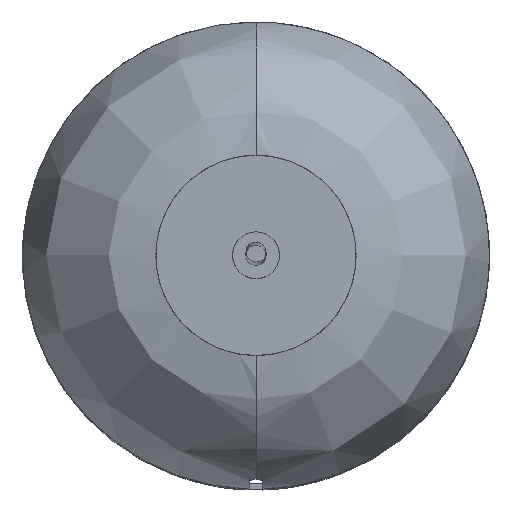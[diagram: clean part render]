
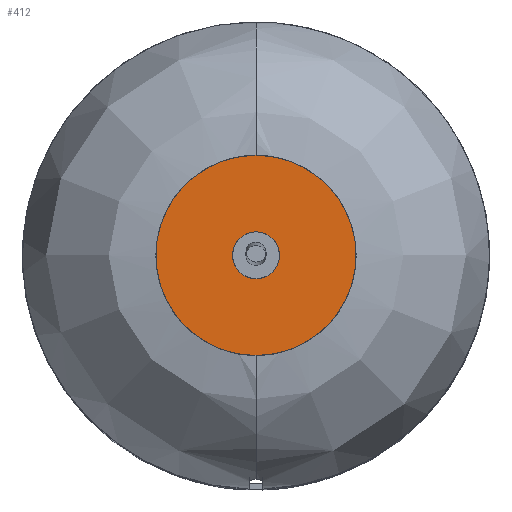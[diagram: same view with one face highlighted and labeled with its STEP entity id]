
A CAD part, top view. The second image highlights one B-rep face of the part: STEP entity #412.
In plain terms, the highlighted free-form (B-spline) face has degree [1, 1] with [2, 2] control points.
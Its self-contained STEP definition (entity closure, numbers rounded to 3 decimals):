
#14=FACE_BOUND('',#480,.T.);
#71=(
BOUNDED_CURVE()
B_SPLINE_CURVE(2,(#3058,#3059,#3060,#3061,#3062),.UNSPECIFIED.,.F.,.F.)
B_SPLINE_CURVE_WITH_KNOTS((3,2,3),(0.,47.124,94.248),
 .UNSPECIFIED.)
CURVE()
GEOMETRIC_REPRESENTATION_ITEM()
RATIONAL_B_SPLINE_CURVE((1.,0.707,1.,0.707,1.))
REPRESENTATION_ITEM('')
);
#72=(
BOUNDED_CURVE()
B_SPLINE_CURVE(2,(#3063,#3064,#3065,#3066,#3067),.UNSPECIFIED.,.F.,.F.)
B_SPLINE_CURVE_WITH_KNOTS((3,2,3),(0.,47.124,94.248),
 .UNSPECIFIED.)
CURVE()
GEOMETRIC_REPRESENTATION_ITEM()
RATIONAL_B_SPLINE_CURVE((1.,0.707,1.,0.707,1.))
REPRESENTATION_ITEM('')
);
#73=(
BOUNDED_CURVE()
B_SPLINE_CURVE(2,(#3068,#3069,#3070,#3071,#3072),.UNSPECIFIED.,.F.,.F.)
B_SPLINE_CURVE_WITH_KNOTS((3,2,3),(94.248,141.372,188.496),
 .UNSPECIFIED.)
CURVE()
GEOMETRIC_REPRESENTATION_ITEM()
RATIONAL_B_SPLINE_CURVE((1.,0.707,1.,0.707,1.))
REPRESENTATION_ITEM('')
);
#74=(
BOUNDED_CURVE()
B_SPLINE_CURVE(2,(#3073,#3074,#3075,#3076,#3077),.UNSPECIFIED.,.F.,.F.)
B_SPLINE_CURVE_WITH_KNOTS((3,2,3),(94.248,141.372,188.496),
 .UNSPECIFIED.)
CURVE()
GEOMETRIC_REPRESENTATION_ITEM()
RATIONAL_B_SPLINE_CURVE((1.,0.707,1.,0.707,1.))
REPRESENTATION_ITEM('')
);
#75=(
BOUNDED_CURVE()
B_SPLINE_CURVE(2,(#3078,#3079,#3080,#3081,#3082),.UNSPECIFIED.,.F.,.F.)
B_SPLINE_CURVE_WITH_KNOTS((3,2,3),(-15.708,-7.854,0.),
 .UNSPECIFIED.)
CURVE()
GEOMETRIC_REPRESENTATION_ITEM()
RATIONAL_B_SPLINE_CURVE((1.,0.707,1.,0.707,1.))
REPRESENTATION_ITEM('')
);
#76=(
BOUNDED_CURVE()
B_SPLINE_CURVE(2,(#3083,#3084,#3085,#3086,#3087),.UNSPECIFIED.,.F.,.F.)
B_SPLINE_CURVE_WITH_KNOTS((3,2,3),(-15.708,-7.854,0.),
 .UNSPECIFIED.)
CURVE()
GEOMETRIC_REPRESENTATION_ITEM()
RATIONAL_B_SPLINE_CURVE((1.,0.707,1.,0.707,1.))
REPRESENTATION_ITEM('')
);
#77=(
BOUNDED_CURVE()
B_SPLINE_CURVE(2,(#3088,#3089,#3090,#3091,#3092),.UNSPECIFIED.,.F.,.F.)
B_SPLINE_CURVE_WITH_KNOTS((3,2,3),(-31.416,-23.562,
-15.708),.UNSPECIFIED.)
CURVE()
GEOMETRIC_REPRESENTATION_ITEM()
RATIONAL_B_SPLINE_CURVE((1.,0.707,1.,0.707,1.))
REPRESENTATION_ITEM('')
);
#78=(
BOUNDED_CURVE()
B_SPLINE_CURVE(2,(#3093,#3094,#3095,#3096,#3097),.UNSPECIFIED.,.F.,.F.)
B_SPLINE_CURVE_WITH_KNOTS((3,2,3),(-31.416,-23.562,
-15.708),.UNSPECIFIED.)
CURVE()
GEOMETRIC_REPRESENTATION_ITEM()
RATIONAL_B_SPLINE_CURVE((1.,0.707,1.,0.707,1.))
REPRESENTATION_ITEM('')
);
#412=ADVANCED_FACE('',(#444,#14),#1468,.T.);
#444=FACE_OUTER_BOUND('',#479,.T.);
#479=EDGE_LOOP('',(#586,#587));
#480=EDGE_LOOP('',(#588,#589));
#586=ORIENTED_EDGE('',*,*,#1112,.T.);
#587=ORIENTED_EDGE('',*,*,#1113,.T.);
#588=ORIENTED_EDGE('',*,*,#1114,.T.);
#589=ORIENTED_EDGE('',*,*,#1115,.T.);
#723=PCURVE('',#1468,#860);
#724=PCURVE('',#1468,#861);
#725=PCURVE('',#1468,#862);
#726=PCURVE('',#1468,#863);
#860=DEFINITIONAL_REPRESENTATION('',(#72),#3927);
#861=DEFINITIONAL_REPRESENTATION('',(#74),#3927);
#862=DEFINITIONAL_REPRESENTATION('',(#76),#3927);
#863=DEFINITIONAL_REPRESENTATION('',(#78),#3927);
#987=SURFACE_CURVE('',#71,(#723),.PCURVE_S1.);
#988=SURFACE_CURVE('',#73,(#724),.PCURVE_S1.);
#989=SURFACE_CURVE('',#75,(#725),.PCURVE_S1.);
#990=SURFACE_CURVE('',#77,(#726),.PCURVE_S1.);
#1112=EDGE_CURVE('',#1421,#1422,#987,.T.);
#1113=EDGE_CURVE('',#1422,#1421,#988,.T.);
#1114=EDGE_CURVE('',#1423,#1424,#989,.T.);
#1115=EDGE_CURVE('',#1424,#1423,#990,.T.);
#1421=VERTEX_POINT('',#3054);
#1422=VERTEX_POINT('',#3055);
#1423=VERTEX_POINT('',#3056);
#1424=VERTEX_POINT('',#3057);
#1468=B_SPLINE_SURFACE_WITH_KNOTS('',1,1,((#3050,#3051),(#3052,#3053)),
 .UNSPECIFIED.,.F.,.F.,.F.,(2,2),(2,2),(-36.,36.),(-36.,36.),
 .UNSPECIFIED.);
#3050=CARTESIAN_POINT('',(-36.,-35.843,199.907));
#3051=CARTESIAN_POINT('',(-36.,36.157,199.907));
#3052=CARTESIAN_POINT('',(36.,-35.843,199.907));
#3053=CARTESIAN_POINT('',(36.,36.157,199.907));
#3054=CARTESIAN_POINT('',(0.,-29.843,199.907));
#3055=CARTESIAN_POINT('',(0.,30.157,199.907));
#3056=CARTESIAN_POINT('',(0.,5.157,199.907));
#3057=CARTESIAN_POINT('',(0.,-4.843,199.907));
#3058=CARTESIAN_POINT('',(0.,-29.843,199.907));
#3059=CARTESIAN_POINT('',(30.,-29.843,199.907));
#3060=CARTESIAN_POINT('',(30.,0.157,199.907));
#3061=CARTESIAN_POINT('',(30.,30.157,199.907));
#3062=CARTESIAN_POINT('',(0.,30.157,199.907));
#3063=CARTESIAN_POINT('',(0.,-30.));
#3064=CARTESIAN_POINT('',(30.,-30.));
#3065=CARTESIAN_POINT('',(30.,0.));
#3066=CARTESIAN_POINT('',(30.,30.));
#3067=CARTESIAN_POINT('',(0.,30.));
#3068=CARTESIAN_POINT('',(0.,30.157,199.907));
#3069=CARTESIAN_POINT('',(-30.,30.157,199.907));
#3070=CARTESIAN_POINT('',(-30.,0.157,199.907));
#3071=CARTESIAN_POINT('',(-30.,-29.843,199.907));
#3072=CARTESIAN_POINT('',(0.,-29.843,199.907));
#3073=CARTESIAN_POINT('',(0.,30.));
#3074=CARTESIAN_POINT('',(-30.,30.));
#3075=CARTESIAN_POINT('',(-30.,0.));
#3076=CARTESIAN_POINT('',(-30.,-30.));
#3077=CARTESIAN_POINT('',(0.,-30.));
#3078=CARTESIAN_POINT('',(0.,5.157,199.907));
#3079=CARTESIAN_POINT('',(5.,5.157,199.907));
#3080=CARTESIAN_POINT('',(5.,0.157,199.907));
#3081=CARTESIAN_POINT('',(5.,-4.843,199.907));
#3082=CARTESIAN_POINT('',(0.,-4.843,199.907));
#3083=CARTESIAN_POINT('',(0.,5.));
#3084=CARTESIAN_POINT('',(5.,5.));
#3085=CARTESIAN_POINT('',(5.,0.));
#3086=CARTESIAN_POINT('',(5.,-5.));
#3087=CARTESIAN_POINT('',(0.,-5.));
#3088=CARTESIAN_POINT('',(0.,-4.843,199.907));
#3089=CARTESIAN_POINT('',(-5.,-4.843,199.907));
#3090=CARTESIAN_POINT('',(-5.,0.157,199.907));
#3091=CARTESIAN_POINT('',(-5.,5.157,199.907));
#3092=CARTESIAN_POINT('',(0.,5.157,199.907));
#3093=CARTESIAN_POINT('',(0.,-5.));
#3094=CARTESIAN_POINT('',(-5.,-5.));
#3095=CARTESIAN_POINT('',(-5.,0.));
#3096=CARTESIAN_POINT('',(-5.,5.));
#3097=CARTESIAN_POINT('',(0.,5.));
#3927=(
GEOMETRIC_REPRESENTATION_CONTEXT(2)
PARAMETRIC_REPRESENTATION_CONTEXT()
REPRESENTATION_CONTEXT('pspace','')
);
